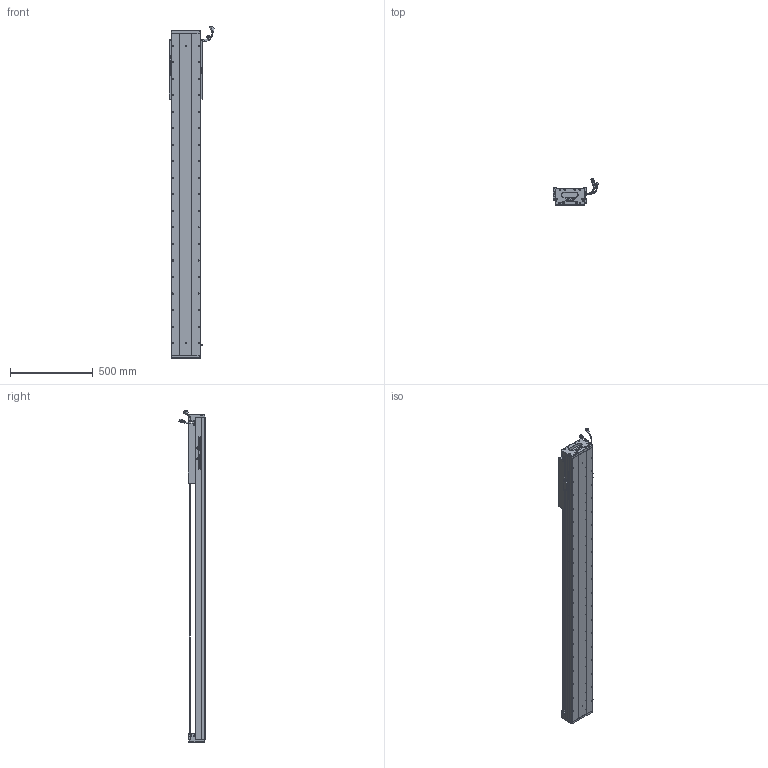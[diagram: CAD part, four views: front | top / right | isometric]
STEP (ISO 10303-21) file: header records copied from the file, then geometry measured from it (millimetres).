
FILE_DESCRIPTION (( 'STEP AP203' ), '1' );
FILE_NAME ('Z5-RY170D-1-L500-B-K.SLDASM_1500.step', '2021-05-18T00:41:01', ( '盈信电脑' ), ( '东莞市道滘镇水果街19号' ), 'SwSTEP 2.0', 'SolidWorks 2016', '' );
FILE_SCHEMA (( 'CONFIG_CONTROL_DESIGN' ));
Length unit declared in the file: millimetre
Products named in the file (36): Z5-RY170-L500耀郪菁釱_1500; Z-RY170詩湍狟揤裔; SCREW-M1.7-1; HOLDER0; Z5-RY170D-1-L500-B-K.SLDASM_1500; COVER-Part-1; SHIELDPLATE; PBU_SHEET; Z-170詩湍傷裔啣; LABEL; SEAL-Part-1; COVER; Z5-RY170臏賑輸(21遴); SCREW-M1.7; SCREW-M1.6-2; PSLH080_PSLF2; Z-RY170詩湍奻揤裔; 覜茼ん672; SCREW-M1.6-1; Z5-RY170-L500詩湍145mm遵_1500; LABEL-Part-1; HARNESS; SEAL; RY170直线电机感应器672光电感应片; SCALE-Part-1; SCALE-Part-2; 140雄赽晤鎢ん堤盄; SCALE; 140蚥薯蝶輸; 榋妏寠巭燃_暯_M2_2; SCREW-M1.6-3; HARNESS-Part-2; SCREW-M1.6; 170-Z-臏賑輸盄裔(21遴); HARNESS-Part-1; 080黍杅芛假蚾釱21遴
Assembly tree (41 placements, depth 4):
  Z5-RY170D-1-L500-B-K.SLDASM_1500
    Z5-RY170-L500耀郪菁釱_1500
    RY170直线电机感应器672光电感应片
    Z5-RY170臏賑輸(21遴)
    覜茼ん672  x3
    PSLH080_PSLF2
      SCALE
        SCALE-Part-1
        SCALE-Part-2
      HARNESS
        HARNESS-Part-1
        HARNESS-Part-2
      LABEL
        LABEL-Part-1
      COVER
        COVER-Part-1
      SEAL
        SEAL-Part-1
      榋妏寠巭燃_暯_M2_2
      SHIELDPLATE
      SCREW-M1.7
      SCREW-M1.7-1
      PBU_SHEET
      SCREW-M1.6
      SCREW-M1.6-1
      SCREW-M1.6-2
      SCREW-M1.6-3
      HOLDER0
    080黍杅芛假蚾釱21遴
    Z5-RY170-L500詩湍145mm遵_1500
    Z-170詩湍傷裔啣  x2
    Z-RY170詩湍奻揤裔  x2
    Z-RY170詩湍狟揤裔  x2
    140蚥薯蝶輸  x2
    170-Z-臏賑輸盄裔(21遴)
    140雄赽晤鎢ん堤盄
Bounding box: 275.34 x 158.11 x 2008.72 mm (x, y, z)
Volume: 10959459.7 mm3; surface area: 2617492.1 mm2
Topology: 36 solids, 36 shells, 3738 faces, 10215 edges, 6395 vertices
Faces by surface type: cylinder 1834, plane 1270, cone 512, torus 69, bspline 53
Entity records: 114779 total; most frequent: CARTESIAN_POINT 30790, ORIENTED_EDGE 17026, DIRECTION 16293, EDGE_CURVE 8513, AXIS2_PLACEMENT_3D 6020, VERTEX_POINT 5513, VECTOR 4253, LINE 4253
